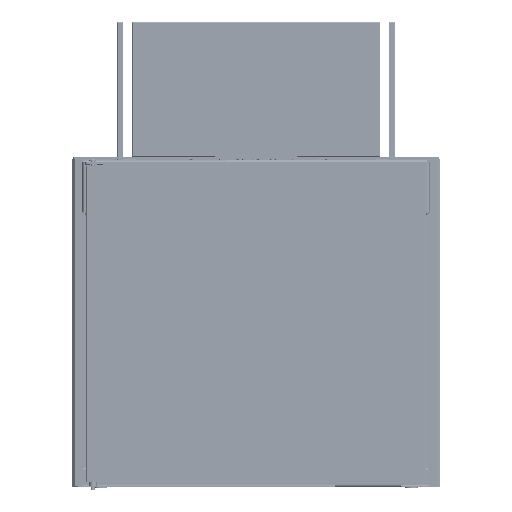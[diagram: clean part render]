
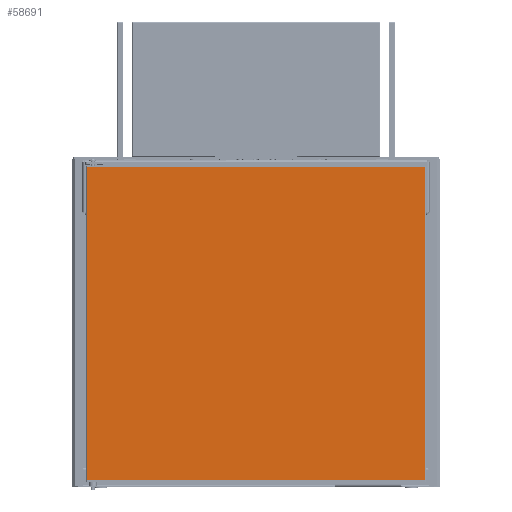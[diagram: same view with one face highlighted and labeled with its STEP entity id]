
A CAD part, front view. The second image highlights one B-rep face of the part: STEP entity #58691.
In plain terms, the highlighted planar face has unit normal (0, -1, 0) as drawn and (0, 0, 1) by its records, which use the part's own axes.
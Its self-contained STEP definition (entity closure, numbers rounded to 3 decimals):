
#3054 = EDGE_CURVE ( 'NONE', #61120, #60454, #52391, .T. ) ;
#7741 = PLANE ( 'NONE',  #109012 ) ;
#13364 = CARTESIAN_POINT ( 'NONE',  ( -207., -191.5, 12. ) ) ;
#18399 = CARTESIAN_POINT ( 'NONE',  ( -207., -191.5, 12. ) ) ;
#23556 = VERTEX_POINT ( 'NONE', #52407 ) ;
#27331 = DIRECTION ( 'NONE',  ( 1., 0., 0. ) ) ;
#31364 = LINE ( 'NONE', #70016, #41894 ) ;
#31474 = EDGE_CURVE ( 'NONE', #107074, #23556, #122308, .T. ) ;
#39314 = VECTOR ( 'NONE', #53614, 1000. ) ;
#41894 = VECTOR ( 'NONE', #84517, 1000. ) ;
#46365 = CARTESIAN_POINT ( 'NONE',  ( 0., 0., 12. ) ) ;
#46672 = ORIENTED_EDGE ( 'NONE', *, *, #3054, .T. ) ;
#50633 = ORIENTED_EDGE ( 'NONE', *, *, #31474, .T. ) ;
#52391 = LINE ( 'NONE', #60667, #39314 ) ;
#52407 = CARTESIAN_POINT ( 'NONE',  ( 207., -191.5, 12. ) ) ;
#53614 = DIRECTION ( 'NONE',  ( -1., 0., 0. ) ) ;
#55639 = VECTOR ( 'NONE', #65240, 1000. ) ;
#58691 = ADVANCED_FACE ( 'NONE', ( #85016 ), #7741, .T. ) ;
#60454 = VERTEX_POINT ( 'NONE', #73345 ) ;
#60640 = EDGE_LOOP ( 'NONE', ( #50633, #100403, #46672, #87429 ) ) ;
#60667 = CARTESIAN_POINT ( 'NONE',  ( -208., 191.5, 12. ) ) ;
#61120 = VERTEX_POINT ( 'NONE', #98501 ) ;
#61504 = EDGE_CURVE ( 'NONE', #60454, #107074, #107233, .T. ) ;
#65240 = DIRECTION ( 'NONE',  ( 1., 0., 0. ) ) ;
#67232 = DIRECTION ( 'NONE',  ( 0., 0., 1. ) ) ;
#70016 = CARTESIAN_POINT ( 'NONE',  ( 207., 191.5, 12. ) ) ;
#73345 = CARTESIAN_POINT ( 'NONE',  ( -207., 191.5, 12. ) ) ;
#84517 = DIRECTION ( 'NONE',  ( 0., 1., 0. ) ) ;
#85016 = FACE_OUTER_BOUND ( 'NONE', #60640, .T. ) ;
#87429 = ORIENTED_EDGE ( 'NONE', *, *, #61504, .T. ) ;
#90677 = DIRECTION ( 'NONE',  ( 0., -1., 0. ) ) ;
#97391 = VECTOR ( 'NONE', #90677, 1000. ) ;
#98501 = CARTESIAN_POINT ( 'NONE',  ( 207., 191.5, 12. ) ) ;
#100403 = ORIENTED_EDGE ( 'NONE', *, *, #113671, .T. ) ;
#107074 = VERTEX_POINT ( 'NONE', #18399 ) ;
#107233 = LINE ( 'NONE', #13364, #97391 ) ;
#109012 = AXIS2_PLACEMENT_3D ( 'NONE', #46365, #67232, #27331 ) ;
#112811 = CARTESIAN_POINT ( 'NONE',  ( -208., -191.5, 12. ) ) ;
#113671 = EDGE_CURVE ( 'NONE', #23556, #61120, #31364, .T. ) ;
#122308 = LINE ( 'NONE', #112811, #55639 ) ;
